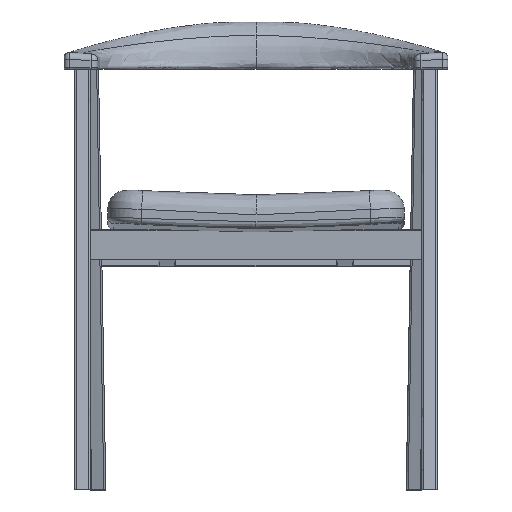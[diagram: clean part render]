
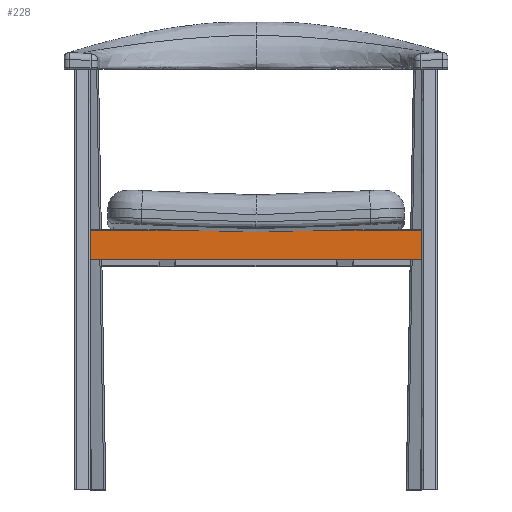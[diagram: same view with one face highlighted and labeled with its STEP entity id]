
A CAD part, front view. The second image highlights one B-rep face of the part: STEP entity #228.
In plain terms, the highlighted planar face has unit normal (0, -1, 0).
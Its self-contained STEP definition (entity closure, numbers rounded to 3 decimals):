
#228=ADVANCED_FACE('',(#420),#2853,.T.);
#420=FACE_OUTER_BOUND('',#612,.T.);
#612=EDGE_LOOP('',(#1396,#1397,#1398,#1399,#1400,#1401,#1402));
#1396=ORIENTED_EDGE('',*,*,#1959,.F.);
#1397=ORIENTED_EDGE('',*,*,#1960,.F.);
#1398=ORIENTED_EDGE('',*,*,#1961,.F.);
#1399=ORIENTED_EDGE('',*,*,#1962,.F.);
#1400=ORIENTED_EDGE('',*,*,#1963,.F.);
#1401=ORIENTED_EDGE('',*,*,#1964,.F.);
#1402=ORIENTED_EDGE('',*,*,#1958,.F.);
#1958=EDGE_CURVE('',#2761,#2762,#2289,.T.);
#1959=EDGE_CURVE('',#2763,#2761,#2290,.T.);
#1960=EDGE_CURVE('',#2764,#2763,#2291,.T.);
#1961=EDGE_CURVE('',#2765,#2764,#2292,.T.);
#1962=EDGE_CURVE('',#2766,#2765,#2293,.T.);
#1963=EDGE_CURVE('',#2767,#2766,#2294,.T.);
#1964=EDGE_CURVE('',#2762,#2767,#2295,.T.);
#2289=B_SPLINE_CURVE_WITH_KNOTS('',3,(#17109,#17110,#17111,#17112),
 .UNSPECIFIED.,.F.,.F.,(4,4),(0.,0.111),
 .UNSPECIFIED.);
#2290=B_SPLINE_CURVE_WITH_KNOTS('',3,(#17113,#17114,#17115,#17116),
 .UNSPECIFIED.,.F.,.F.,(4,4),(-0.111,0.),.UNSPECIFIED.);
#2291=B_SPLINE_CURVE_WITH_KNOTS('',1,(#17117,#17118),.UNSPECIFIED.,.F.,
 .F.,(2,2),(-134.983,0.),.UNSPECIFIED.);
#2292=B_SPLINE_CURVE_WITH_KNOTS('',1,(#17119,#17120),.UNSPECIFIED.,.F.,
 .F.,(2,2),(-43.003,0.),.UNSPECIFIED.);
#2293=B_SPLINE_CURVE_WITH_KNOTS('',1,(#17121,#17122),.UNSPECIFIED.,.F.,
 .F.,(2,2),(-492.,0.),.UNSPECIFIED.);
#2294=B_SPLINE_CURVE_WITH_KNOTS('',1,(#17123,#17124),.UNSPECIFIED.,.F.,
 .F.,(2,2),(-43.003,0.),.UNSPECIFIED.);
#2295=B_SPLINE_CURVE_WITH_KNOTS('',1,(#17125,#17126),.UNSPECIFIED.,.F.,
 .F.,(2,2),(-134.983,0.),.UNSPECIFIED.);
#2761=VERTEX_POINT('',#17077);
#2762=VERTEX_POINT('',#17078);
#2763=VERTEX_POINT('',#17079);
#2764=VERTEX_POINT('',#17080);
#2765=VERTEX_POINT('',#17081);
#2766=VERTEX_POINT('',#17082);
#2767=VERTEX_POINT('',#17083);
#2853=PLANE('',#3041);
#3041=AXIS2_PLACEMENT_3D('',#16779,#3099,$);
#3099=DIRECTION('',(0.,-1.,0.));
#16779=CARTESIAN_POINT('',(295.201,120.,338.6));
#17077=CARTESIAN_POINT('',(0.,120.,383.361));
#17078=CARTESIAN_POINT('',(111.017,120.,385.904));
#17079=CARTESIAN_POINT('',(-111.017,120.,385.904));
#17080=CARTESIAN_POINT('',(-246.,120.,385.904));
#17081=CARTESIAN_POINT('',(-246.,120.,342.902));
#17082=CARTESIAN_POINT('',(246.,120.,342.902));
#17083=CARTESIAN_POINT('',(246.,120.,385.904));
#17109=CARTESIAN_POINT('',(0.,120.,383.361));
#17110=CARTESIAN_POINT('',(37.019,120.,383.361));
#17111=CARTESIAN_POINT('',(74.037,120.,384.21));
#17112=CARTESIAN_POINT('',(111.017,120.,385.904));
#17113=CARTESIAN_POINT('',(-111.017,120.,385.904));
#17114=CARTESIAN_POINT('',(-74.037,120.,384.21));
#17115=CARTESIAN_POINT('',(-37.019,120.,383.361));
#17116=CARTESIAN_POINT('',(0.,120.,383.361));
#17117=CARTESIAN_POINT('',(-246.,120.,385.904));
#17118=CARTESIAN_POINT('',(-111.017,120.,385.904));
#17119=CARTESIAN_POINT('',(-246.,120.,342.902));
#17120=CARTESIAN_POINT('',(-246.,120.,385.904));
#17121=CARTESIAN_POINT('',(246.,120.,342.902));
#17122=CARTESIAN_POINT('',(-246.,120.,342.902));
#17123=CARTESIAN_POINT('',(246.,120.,385.904));
#17124=CARTESIAN_POINT('',(246.,120.,342.902));
#17125=CARTESIAN_POINT('',(111.017,120.,385.904));
#17126=CARTESIAN_POINT('',(246.,120.,385.904));
